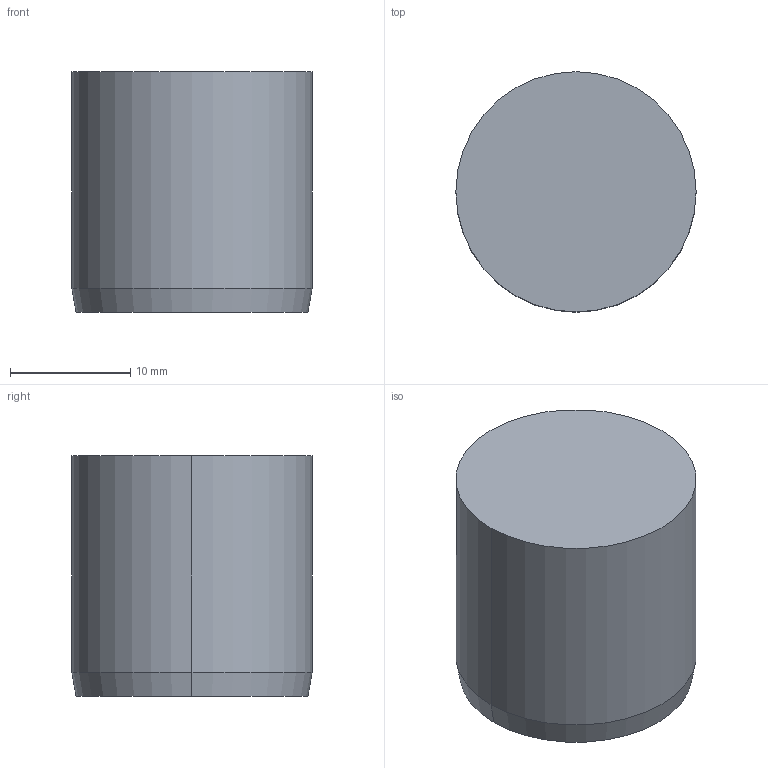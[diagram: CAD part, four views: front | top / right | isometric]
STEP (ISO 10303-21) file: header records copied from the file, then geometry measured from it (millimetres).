
FILE_DESCRIPTION (( 'STEP AP214' ), '1' );
FILE_NAME ('BruyRubio_VA-20.STEP', '2019-12-19T14:12:09', ( '' ), ( '' ), 'SwSTEP 2.0', 'SolidWorks 2017', '' );
FILE_SCHEMA (( 'AUTOMOTIVE_DESIGN' ));
Length unit declared in the file: millimetre
Products named in the file (1): BruyRubio_VA-20
Bounding box: 20 x 20 x 20 mm (x, y, z)
Volume: 6160.8 mm3; surface area: 1913.1 mm2
Topology: 1 solids, 1 shells, 9 faces, 16 edges, 10 vertices
Faces by surface type: cylinder 4, plane 3, cone 2
Entity records: 357 total; most frequent: DIRECTION 46, CARTESIAN_POINT 36, ORIENTED_EDGE 32, AXIS2_PLACEMENT_3D 20, EDGE_CURVE 16, UNCERTAINTY_MEASURE_WITH_UNIT 12, COLOUR_RGB 11, SURFACE_STYLE_USAGE 11
